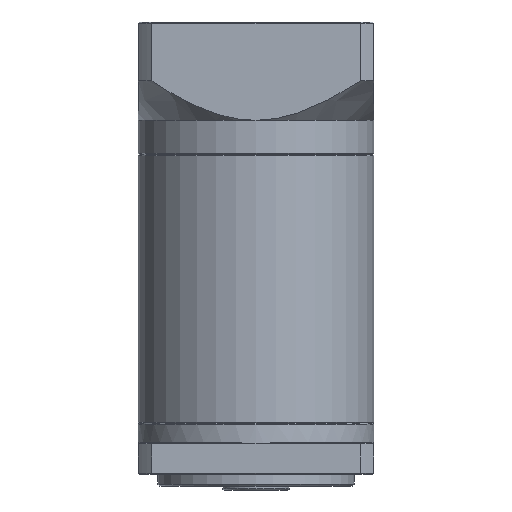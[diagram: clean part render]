
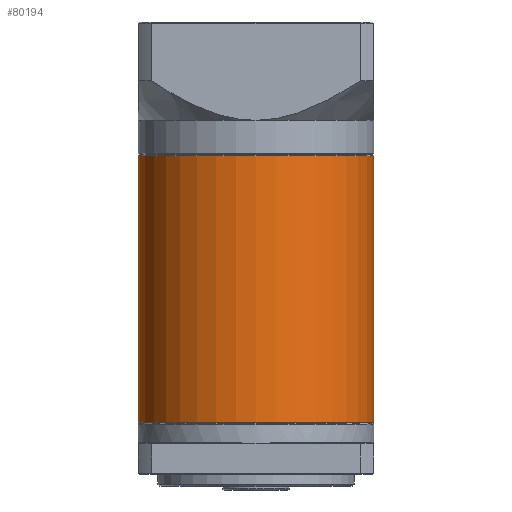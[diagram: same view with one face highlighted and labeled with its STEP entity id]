
A CAD part, front view. The second image highlights one B-rep face of the part: STEP entity #80194.
In plain terms, the highlighted cylindrical face has radius 30 mm (diameter 60 mm), a partial arc.
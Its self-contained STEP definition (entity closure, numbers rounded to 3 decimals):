
#9179 = LINE ( 'NONE', #21395, #62275 ) ;
#12765 = VECTOR ( 'NONE', #15579, 1000. ) ;
#15579 = DIRECTION ( 'NONE',  ( 0., 0., -1. ) ) ;
#16498 = ORIENTED_EDGE ( 'NONE', *, *, #34773, .F. ) ;
#17277 = EDGE_LOOP ( 'NONE', ( #16498, #73152, #28776, #86267 ) ) ;
#18446 = VERTEX_POINT ( 'NONE', #56580 ) ;
#18521 = CARTESIAN_POINT ( 'NONE',  ( -66.425, 14.93, 4.12 ) ) ;
#21395 = CARTESIAN_POINT ( 'NONE',  ( -96.425, 14.93, 4.37 ) ) ;
#25244 = VERTEX_POINT ( 'NONE', #89351 ) ;
#25501 = DIRECTION ( 'NONE',  ( 1., 0., 0. ) ) ;
#27324 = AXIS2_PLACEMENT_3D ( 'NONE', #76120, #84169, #64027 ) ;
#28502 = CARTESIAN_POINT ( 'NONE',  ( -66.425, 14.93, -63.68 ) ) ;
#28776 = ORIENTED_EDGE ( 'NONE', *, *, #36447, .T. ) ;
#34773 = EDGE_CURVE ( 'NONE', #18446, #54840, #88517, .T. ) ;
#35511 = DIRECTION ( 'NONE',  ( 1., 0., 0. ) ) ;
#36447 = EDGE_CURVE ( 'NONE', #25244, #77538, #9179, .T. ) ;
#41643 = AXIS2_PLACEMENT_3D ( 'NONE', #28502, #76900, #35511 ) ;
#42148 = CIRCLE ( 'NONE', #70361, 30. ) ;
#44790 = CARTESIAN_POINT ( 'NONE',  ( -36.425, 14.93, -63.68 ) ) ;
#46564 = EDGE_CURVE ( 'NONE', #18446, #25244, #42148, .T. ) ;
#48057 = CIRCLE ( 'NONE', #41643, 30. ) ;
#50188 = CARTESIAN_POINT ( 'NONE',  ( -36.425, 14.93, 4.37 ) ) ;
#54840 = VERTEX_POINT ( 'NONE', #44790 ) ;
#55450 = EDGE_CURVE ( 'NONE', #77538, #54840, #48057, .T. ) ;
#55687 = CYLINDRICAL_SURFACE ( 'NONE', #27324, 30. ) ;
#56580 = CARTESIAN_POINT ( 'NONE',  ( -36.425, 14.93, 4.12 ) ) ;
#62275 = VECTOR ( 'NONE', #69791, 1000. ) ;
#64027 = DIRECTION ( 'NONE',  ( -1., 0., 0. ) ) ;
#64334 = FACE_OUTER_BOUND ( 'NONE', #17277, .T. ) ;
#65660 = CARTESIAN_POINT ( 'NONE',  ( -96.425, 14.93, -63.68 ) ) ;
#66978 = DIRECTION ( 'NONE',  ( 0., 0., -1. ) ) ;
#69791 = DIRECTION ( 'NONE',  ( 0., 0., -1. ) ) ;
#70361 = AXIS2_PLACEMENT_3D ( 'NONE', #18521, #66978, #25501 ) ;
#73152 = ORIENTED_EDGE ( 'NONE', *, *, #46564, .T. ) ;
#76120 = CARTESIAN_POINT ( 'NONE',  ( -66.425, 14.93, 4.37 ) ) ;
#76900 = DIRECTION ( 'NONE',  ( 0., 0., 1. ) ) ;
#77538 = VERTEX_POINT ( 'NONE', #65660 ) ;
#80194 = ADVANCED_FACE ( 'NONE', ( #64334 ), #55687, .T. ) ;
#84169 = DIRECTION ( 'NONE',  ( 0., 0., -1. ) ) ;
#86267 = ORIENTED_EDGE ( 'NONE', *, *, #55450, .T. ) ;
#88517 = LINE ( 'NONE', #50188, #12765 ) ;
#89351 = CARTESIAN_POINT ( 'NONE',  ( -96.425, 14.93, 4.12 ) ) ;
